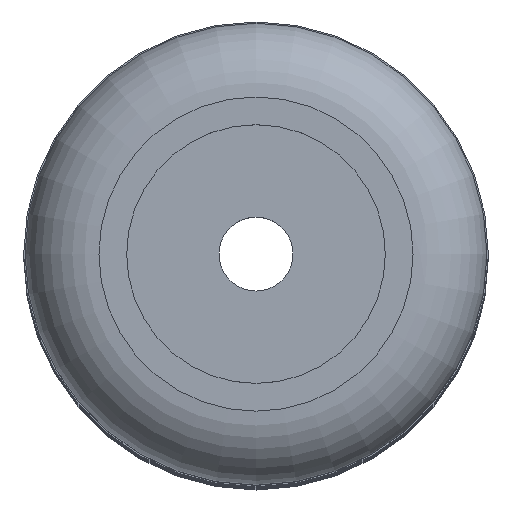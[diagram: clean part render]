
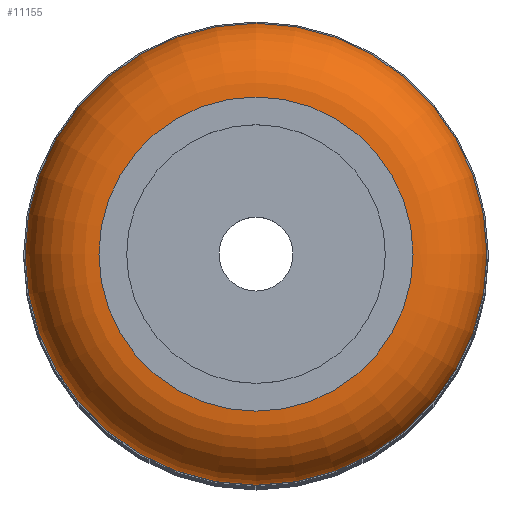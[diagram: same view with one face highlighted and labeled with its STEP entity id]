
A CAD part, top view. The second image highlights one B-rep face of the part: STEP entity #11155.
In plain terms, the highlighted toroidal (fillet/blend) face has major radius 17 mm and minor radius 8 mm.
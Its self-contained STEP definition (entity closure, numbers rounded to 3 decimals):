
#34=TOROIDAL_SURFACE('',#39930,17.,8.);
#11155=ADVANCED_FACE('',(#13893,#13894),#34,.T.);
#13893=FACE_BOUND('',#14116,.T.);
#13894=FACE_BOUND('',#14117,.T.);
#14116=EDGE_LOOP('',(#16340));
#14117=EDGE_LOOP('',(#16341));
#16340=ORIENTED_EDGE('',*,*,#32070,.F.);
#16341=ORIENTED_EDGE('',*,*,#32071,.F.);
#28098=VERTEX_POINT('',#58611);
#28099=VERTEX_POINT('',#58613);
#32070=EDGE_CURVE('',#28098,#28098,#37946,.T.);
#32071=EDGE_CURVE('',#28099,#28099,#37947,.T.);
#37946=CIRCLE('',#39928,25.);
#37947=CIRCLE('',#39929,17.);
#39928=AXIS2_PLACEMENT_3D('',#58610,#43931,#43932);
#39929=AXIS2_PLACEMENT_3D('',#58612,#43933,#43934);
#39930=AXIS2_PLACEMENT_3D('',#58614,#43935,#43936);
#43931=DIRECTION('',(0.,0.,-1.));
#43932=DIRECTION('',(1.,0.,0.));
#43933=DIRECTION('',(0.,0.,1.));
#43934=DIRECTION('',(1.,0.,0.));
#43935=DIRECTION('',(0.,0.,1.));
#43936=DIRECTION('',(1.,0.,0.));
#58610=CARTESIAN_POINT('',(0.,200.,248.5));
#58611=CARTESIAN_POINT('',(25.,200.,248.5));
#58612=CARTESIAN_POINT('',(0.,200.,256.5));
#58613=CARTESIAN_POINT('',(17.,200.,256.5));
#58614=CARTESIAN_POINT('',(0.,200.,248.5));
